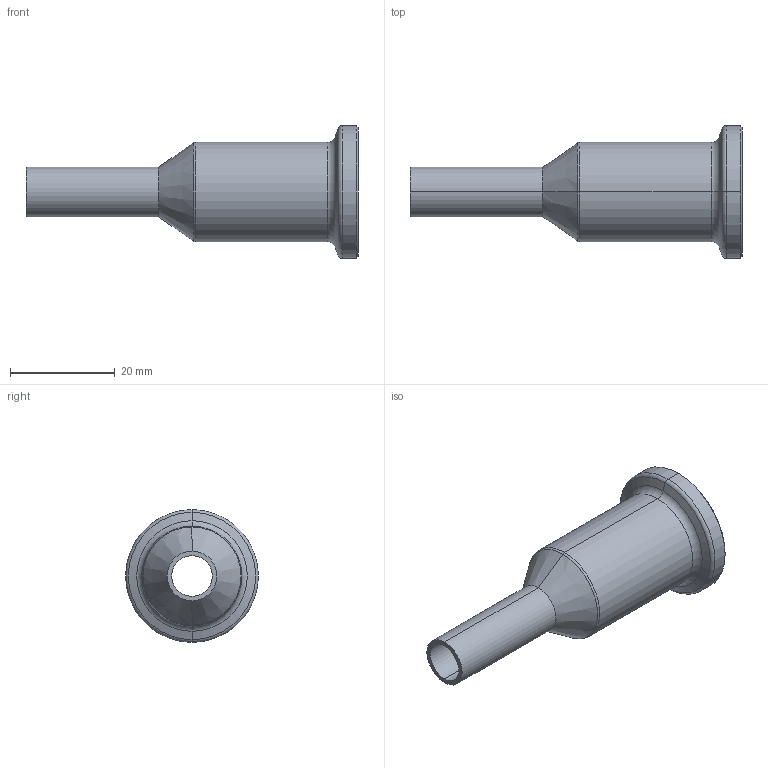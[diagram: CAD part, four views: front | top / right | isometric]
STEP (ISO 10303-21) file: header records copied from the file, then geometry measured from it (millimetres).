
FILE_DESCRIPTION (( 'STEP AP214' ), '1' );
FILE_NAME ('TE31SCW6L.75x.375-...STEP', '2016-05-29T11:53:16', ( 'eran' ), ( '' ), 'SwSTEP 2.0', 'SolidWorks 2016', '' );
FILE_SCHEMA (( 'AUTOMOTIVE_DESIGN' ));
Length unit declared in the file: millimetre
Products named in the file (1): TE31SCW6L.75x.375-..
Bounding box: 63.5 x 25.4 x 25.4 mm (x, y, z)
Volume: 7117.2 mm3; surface area: 5665.6 mm2
Topology: 1 solids, 1 shells, 37 faces, 74 edges, 40 vertices
Faces by surface type: cone 12, cylinder 12, torus 10, plane 3
Entity records: 992 total; most frequent: DIRECTION 200, CARTESIAN_POINT 152, ORIENTED_EDGE 148, AXIS2_PLACEMENT_3D 88, EDGE_CURVE 74, CIRCLE 50, VERTEX_POINT 40, EDGE_LOOP 40
